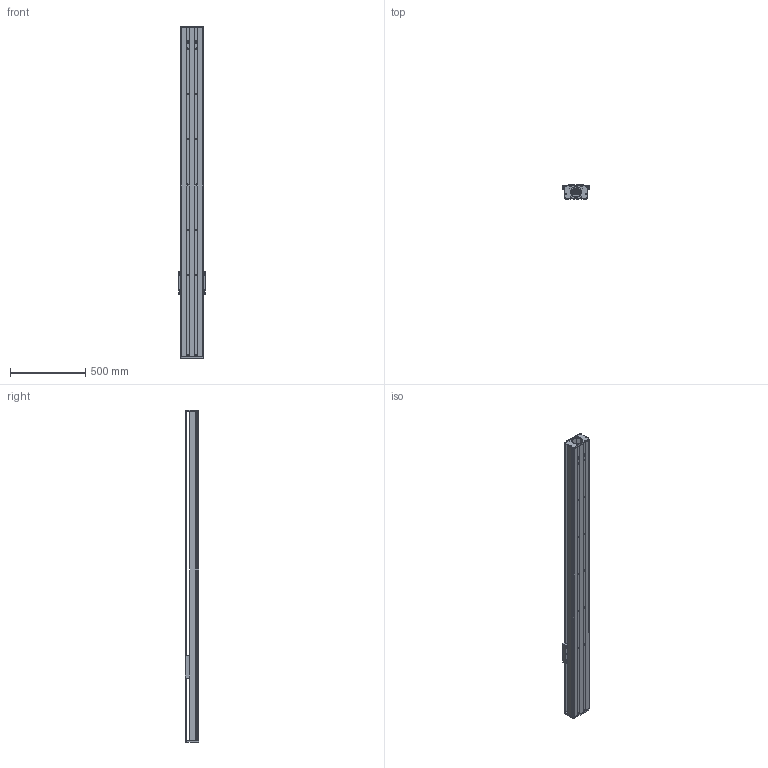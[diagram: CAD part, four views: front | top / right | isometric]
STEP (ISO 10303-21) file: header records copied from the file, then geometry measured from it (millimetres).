
FILE_DESCRIPTION (( 'STEP AP203' ), '1' );
FILE_NAME ('CF150-P1900.STEP', '2016-02-23T05:44:32', ( 'Sky123.Org' ), ( 'Sky123.Org' ), 'SwSTEP 2.0', 'SolidWorks 2015', '' );
FILE_SCHEMA (( 'CONFIG_CONTROL_DESIGN' ));
Length unit declared in the file: millimetre
Products named in the file (20): BK15; 150-20蹟譫釱; 150-86俋离萇儂假蚾啣; SFU2005-3蹟譫; BF15; 蚾饜极2^蚾饜极1; deep groove ball bearings gb_Rolling bearings 6002 GB 276-94; 150賑輸; ѹȦ-15; 150臏倰第; 150耜啣; 长撑圈-15; HGR15絳寢; CF150裔啣; M15X1坶踡蹟譫; hGH15CA賑輸; CF150-P1900; 撑圈-15; BK15+BF15
Assembly tree (24 placements, depth 3):
  CF150-P1900
    150臏倰第
    HGR15絳寢  x2
    hGH15CA賑輸  x4
    BK15+BF15
    150-20蹟譫釱
    150-86俋离萇儂假蚾啣
    BF15
    BK15
      deep groove ball bearings gb_Rolling bearings 6002 GB 276-94  x2
      ѹȦ-15
      长撑圈-15
      M15X1坶踡蹟譫
      撑圈-15
      BK15
    蚾饜极2^蚾饜极1
      SFU2005-3蹟譫
    150賑輸
    150耜啣
    CF150裔啣
Bounding box: 175 x 89 x 2200.24 mm (x, y, z)
Volume: 9586649 mm3; surface area: 2974503.2 mm2
Topology: 22 solids, 22 shells, 1472 faces, 4454 edges, 2966 vertices
Faces by surface type: cylinder 727, plane 549, torus 112, sphere 64, cone 16, bspline 4
Entity records: 115680 total; most frequent: CARTESIAN_POINT 85278, ORIENTED_EDGE 6130, DIRECTION 5671, EDGE_CURVE 3065, AXIS2_PLACEMENT_3D 2148, VERTEX_POINT 2040, EDGE_LOOP 1397, VECTOR 1375
